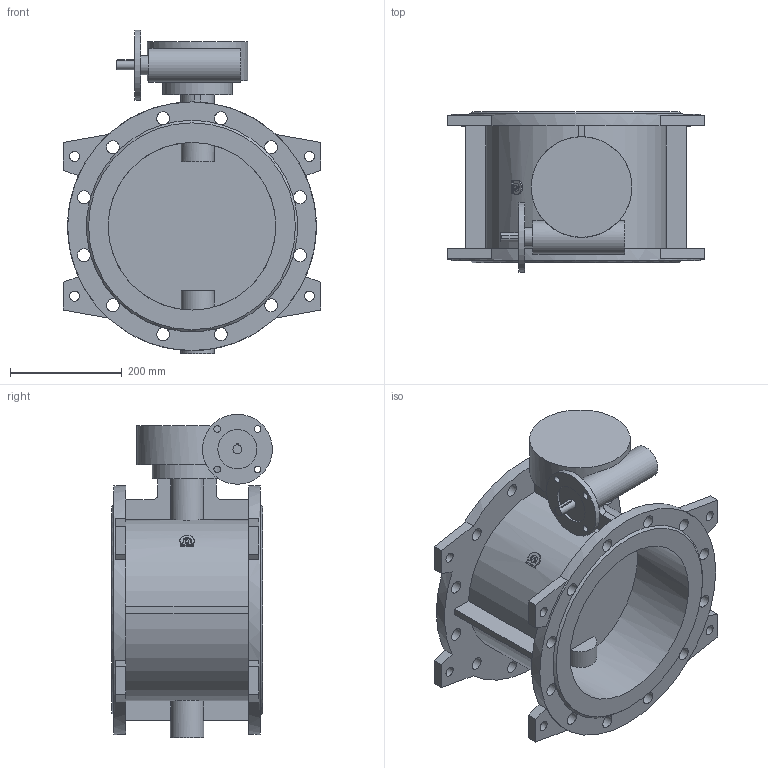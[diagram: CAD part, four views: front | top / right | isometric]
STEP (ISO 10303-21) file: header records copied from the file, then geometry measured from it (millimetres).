
FILE_DESCRIPTION(('STEP AP203'), '1');
FILE_NAME('Çàòâîð 023F.Z DN300 PN10_ð-ð_ôë', '', ('UNSPECIFIED'), ('UNSPECIFIED'), 'ASCON STEP Converter 1.6', 'ASCON Math Kernel', '');
FILE_SCHEMA(('CONFIG_CONTROL_DESIGN'));
Length unit declared in the file: millimetre
Bounding box: 460 x 287.5 x 578.5 mm (x, y, z)
Volume: 12483327.5 mm3; surface area: 1272981.5 mm2
Topology: 1 solids, 1 shells, 170 faces, 505 edges, 336 vertices
Faces by surface type: plane 95, cylinder 73, cone 2
Full cylindrical faces by diameter (mm): 8.3 x4, 12 x8, 16 x1, 18 x8, 23 x24, 34 x1, 60 x2, 70 x1, 125 x2, 180 x1, 300 x2, 445 x2
Entity records: 9168 total; most frequent: CARTESIAN_POINT 3182, DIRECTION 957, ORIENTED_EDGE 890, EDGE_CURVE 445, AXIS2_PLACEMENT_3D 383, VERTEX_POINT 336, EDGE_LOOP 301, FACE_BOUND 216
